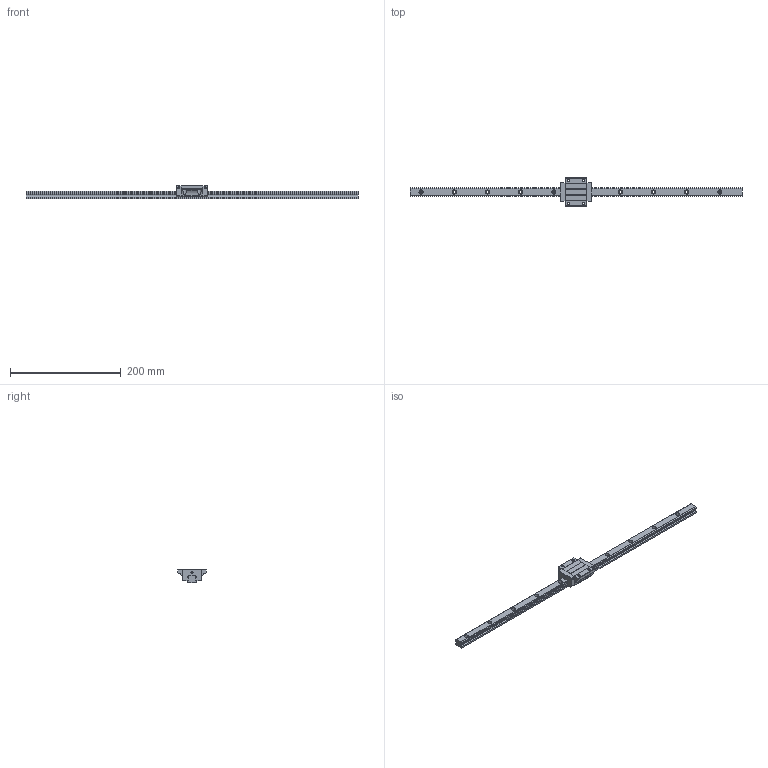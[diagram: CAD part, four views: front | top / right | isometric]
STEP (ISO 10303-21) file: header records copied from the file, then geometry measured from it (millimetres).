
FILE_DESCRIPTION (( 'STEP AP203' ), '1' );
FILE_NAME ('TRS15FN-XN.STEP', '2024-05-22T05:46:23', ( '' ), ( '' ), 'SwSTEP 2.0', 'SolidWorks 2022', '' );
FILE_SCHEMA (( 'CONFIG_CONTROL_DESIGN' ));
Length unit declared in the file: millimetre
Products named in the file (1): TRS15FN-XN
Bounding box: 600 x 52 x 24 mm (x, y, z)
Volume: 137035.8 mm3; surface area: 47696.9 mm2
Topology: 2 solids, 2 shells, 238 faces, 638 edges, 416 vertices
Faces by surface type: cylinder 130, plane 104, sphere 4
Entity records: 8103 total; most frequent: CARTESIAN_POINT 1891, DIRECTION 1306, ORIENTED_EDGE 1268, EDGE_CURVE 634, AXIS2_PLACEMENT_3D 467, VERTEX_POINT 416, LINE 372, VECTOR 372
